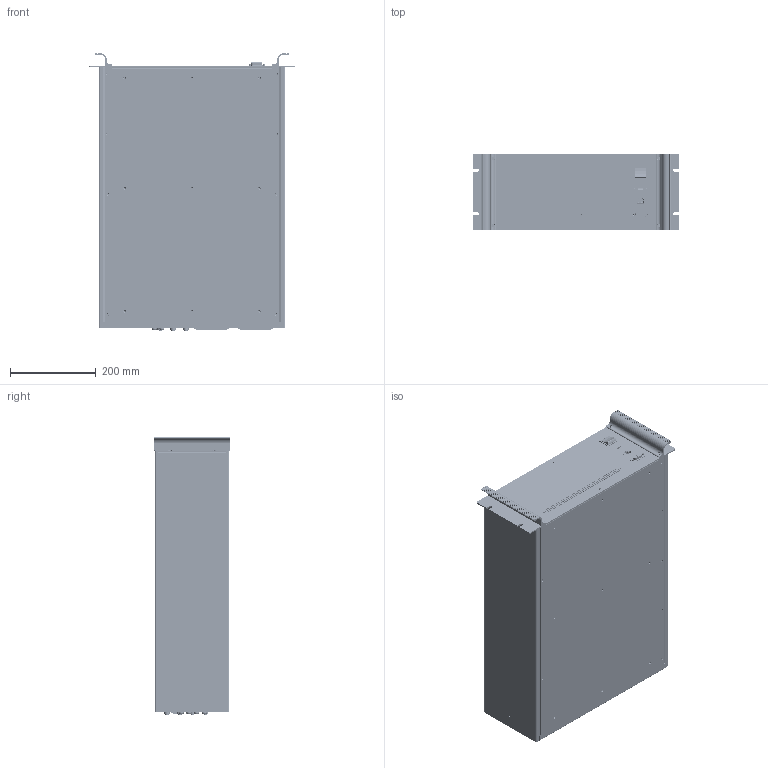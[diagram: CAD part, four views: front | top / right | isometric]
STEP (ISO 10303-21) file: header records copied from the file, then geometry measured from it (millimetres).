
FILE_DESCRIPTION (( 'STEP AP214' ), '1' );
FILE_NAME ('CB-1000_ASM Rev4.STEP', '2026-05-19T18:19:45', ( '' ), ( '' ), 'SwSTEP 2.0', 'SolidWorks 2023', '' );
FILE_SCHEMA (( 'AUTOMOTIVE_DESIGN' ));
Length unit declared in the file: millimetre
Products named in the file (114): 1778108_41; 1822755_41; 1778108_14; 1822755_33; 1778108_40; M3x8 Pan Screw (B)_2; 1778108_25; 1822755_20; M620247X_2; M620309X_2; 1822755_30; 1778108_01; 1822755_12; Fuse^CB-1000_ASM Rev4; 1778108_27; M6219479; CB-1000 Back Panel r6; 1778108_18; 1822755; 1822755_06; 5353928-1.stp; 1778108_38; 1778108_08; 1822755_09; 1778108; 1778108_21; 1822755_21; M4x8 Stud_2; M6203055_2; 1778108_07; 1822755_34; 1778108_36; 1822755_11; 1778108_28; 1778108_05; 1822755_14; 1778108_29; 1778108_45; 1822755_22; 1778108_42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
Assembly tree (170 placements, depth 4):
  CB-1000_ASM Rev4
    M6219479
      M620104X_3
        M4x8 Stud_2
      M620040X_3  x2
        M4x20 WeldStud_2
        M620040X_1_2
      M620247X_2  x2
      M6203055_2
      M620309X_2
      M4x16 CSK Screw (B)_2  x4
      M3x8 CSK Screw (B)_2  x22
      M3x8 Pan Screw (B)_2  x6
    CB-1000 Front Panel r3
    91075A460_Male-Female Threaded Hex Standoff_91075A460  x2
    5063N27_Circuit Board D-Sub Connector_5063N27
    5353928-1.stp
    RJHSE338L.stp  x2
    1778108  x6
      1778108_01
      1778108_02
      1778108_03
      1778108_04
      1778108_05
      1778108_06
      1778108_07
      1778108_08
      1778108_09
      1778108_10
      1778108_11
      1778108_12
      1778108_13
      1778108_14
      1778108_15
      1778108_16
      1778108_17
      1778108_18
      1778108_19
      1778108_20
      1778108_21
      1778108_22
      1778108_23
      1778108_24
      1778108_25
      1778108_26
      1778108_27
      1778108_28
      1778108_29
      1778108_30
      1778108_31
      1778108_32
      1778108_33
      1778108_34
      1778108_35
      1778108_36
      1778108_37
      1778108_38
      1778108_39
      1778108_40
      1778108_41
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Bounding box: 482.6 x 177 x 647.8 mm (x, y, z)
Volume: 1902768.4 mm3; surface area: 2284408.1 mm2
Topology: 683 solids, 683 shells, 39744 faces, 105564 edges, 68592 vertices
Faces by surface type: plane 25990, cylinder 9497, bspline 1354, cone 1337, torus 1074, sphere 492
Entity records: 352413 total; most frequent: CARTESIAN_POINT 105678, ORIENTED_EDGE 52264, DIRECTION 47651, EDGE_CURVE 26132, VECTOR 18485, LINE 18485, VERTEX_POINT 17105, AXIS2_PLACEMENT_3D 14583
